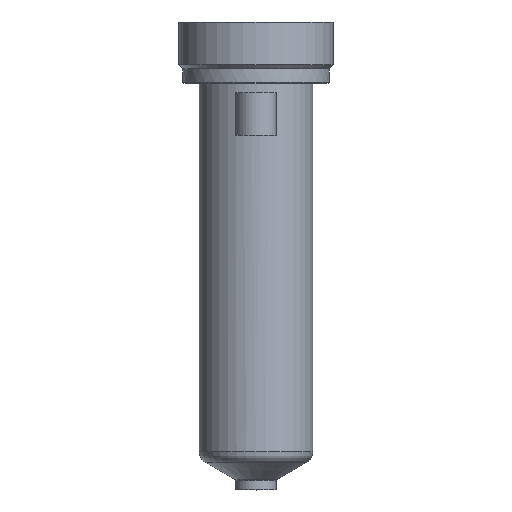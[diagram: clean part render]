
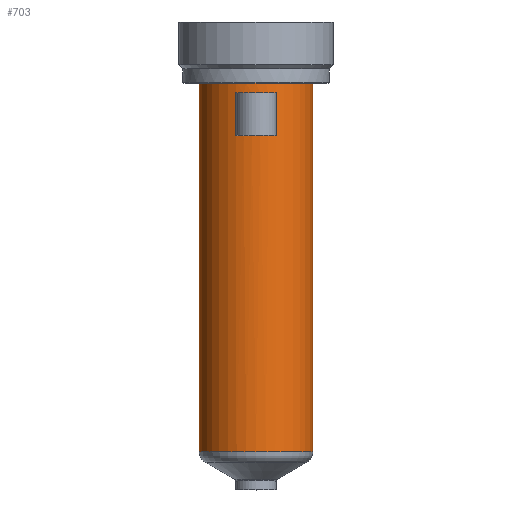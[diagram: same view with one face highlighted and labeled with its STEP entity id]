
A CAD part, top view. The second image highlights one B-rep face of the part: STEP entity #703.
In plain terms, the highlighted cylindrical face has radius 14 mm (diameter 28 mm), a partial arc.
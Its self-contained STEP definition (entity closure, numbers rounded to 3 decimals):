
#195=DIRECTION('',(0.,-1.,0.));
#196=VECTOR('',#195,90.583);
#197=CARTESIAN_POINT('',(14.,0.,0.));
#198=LINE('',#197,#196);
#199=CARTESIAN_POINT('',(0.,-90.583,0.));
#200=DIRECTION('',(0.,1.,0.));
#201=DIRECTION('',(-1.,0.,0.));
#202=AXIS2_PLACEMENT_3D('',#199,#200,#201);
#204=DIRECTION('',(0.,1.,0.));
#205=VECTOR('',#204,90.583);
#206=CARTESIAN_POINT('',(-14.,-90.583,0.));
#207=LINE('',#206,#205);
#208=CARTESIAN_POINT('',(0.,0.,0.));
#209=DIRECTION('',(0.,1.,0.));
#210=DIRECTION('',(-1.,0.,0.));
#211=AXIS2_PLACEMENT_3D('',#208,#209,#210);
#289=DIRECTION('',(0.,-1.,0.));
#290=VECTOR('',#289,10.5);
#291=CARTESIAN_POINT('',(-5.,-2.5,13.077));
#292=LINE('',#291,#290);
#297=CARTESIAN_POINT('',(0.,-13.,0.));
#298=DIRECTION('',(0.,1.,0.));
#299=DIRECTION('',(-0.357,0.,0.934));
#300=AXIS2_PLACEMENT_3D('',#297,#298,#299);
#332=CARTESIAN_POINT('',(0.,-2.5,0.));
#333=DIRECTION('',(0.,-1.,0.));
#334=DIRECTION('',(0.357,0.,0.934));
#335=AXIS2_PLACEMENT_3D('',#332,#333,#334);
#337=DIRECTION('',(0.,-1.,0.));
#338=VECTOR('',#337,10.5);
#339=CARTESIAN_POINT('',(5.,-2.5,13.077));
#340=LINE('',#339,#338);
#398=CARTESIAN_POINT('',(-14.,0.,0.));
#399=CARTESIAN_POINT('',(14.,0.,0.));
#400=VERTEX_POINT('',#398);
#401=VERTEX_POINT('',#399);
#410=CARTESIAN_POINT('',(5.,-2.5,13.077));
#411=VERTEX_POINT('',#410);
#412=CARTESIAN_POINT('',(-5.,-2.5,13.077));
#413=VERTEX_POINT('',#412);
#450=CARTESIAN_POINT('',(14.,-90.583,0.));
#451=VERTEX_POINT('',#450);
#460=CARTESIAN_POINT('',(-14.,-90.583,0.));
#461=VERTEX_POINT('',#460);
#462=CARTESIAN_POINT('',(-5.,-13.,13.077));
#463=CARTESIAN_POINT('',(5.,-13.,13.077));
#464=VERTEX_POINT('',#462);
#465=VERTEX_POINT('',#463);
#681=CARTESIAN_POINT('',(0.,16.4,0.));
#682=DIRECTION('',(0.,-1.,0.));
#683=DIRECTION('',(-1.,0.,0.));
#684=AXIS2_PLACEMENT_3D('',#681,#682,#683);
#685=CYLINDRICAL_SURFACE('',#684,14.);
#686=ORIENTED_EDGE('',*,*,#675,.T.);
#688=ORIENTED_EDGE('',*,*,#687,.F.);
#689=ORIENTED_EDGE('',*,*,#671,.T.);
#690=ORIENTED_EDGE('',*,*,#661,.T.);
#691=EDGE_LOOP('',(#686,#688,#689,#690));
#692=FACE_OUTER_BOUND('',#691,.F.);
#694=ORIENTED_EDGE('',*,*,#693,.T.);
#696=ORIENTED_EDGE('',*,*,#695,.T.);
#698=ORIENTED_EDGE('',*,*,#697,.F.);
#700=ORIENTED_EDGE('',*,*,#699,.T.);
#701=EDGE_LOOP('',(#694,#696,#698,#700));
#702=FACE_BOUND('',#701,.F.);
#703=ADVANCED_FACE('',(#692,#702),#685,.T.);
#203=CIRCLE('',#202,14.);
#212=CIRCLE('',#211,14.);
#301=CIRCLE('',#300,14.);
#336=CIRCLE('',#335,14.);
#661=EDGE_CURVE('',#400,#401,#212,.T.);
#671=EDGE_CURVE('',#461,#400,#207,.T.);
#675=EDGE_CURVE('',#401,#451,#198,.T.);
#687=EDGE_CURVE('',#461,#451,#203,.T.);
#693=EDGE_CURVE('',#413,#464,#292,.T.);
#695=EDGE_CURVE('',#464,#465,#301,.T.);
#697=EDGE_CURVE('',#411,#465,#340,.T.);
#699=EDGE_CURVE('',#411,#413,#336,.T.);
